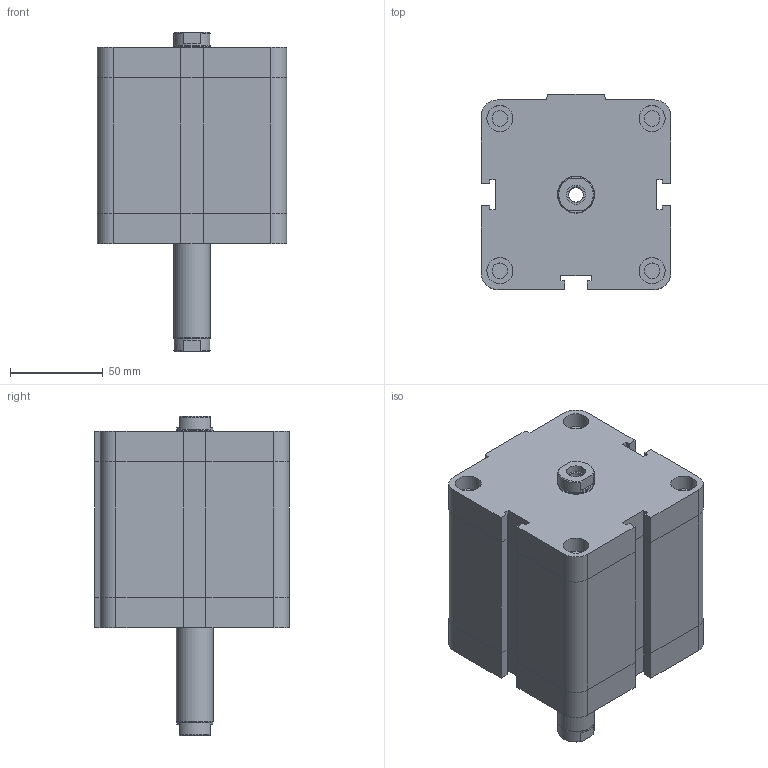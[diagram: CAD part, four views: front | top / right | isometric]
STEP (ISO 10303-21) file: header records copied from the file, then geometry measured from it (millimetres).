
FILE_DESCRIPTION((''),'2;1');
FILE_NAME('I:\Area Tecnica\Disegni\VARIE-3D\Componenti\EUROPE\15##_###_####_06_#\1581_80_0050_06_1.iam.stp','2009-04-20T15:11:51',(''),(''),'Autodesk Inventor 2009','Autodesk Inventor 2009','');
FILE_SCHEMA(('AUTOMOTIVE_DESIGN { 1 0 10303 214 1 1 1 1 }'));
Length unit declared in the file: millimetre
Products named in the file (3): 1581_80_0050_06_1; 1581_80_0050_03_1_C; 1561_80_0050_06_1_S
Assembly tree (2 placements, depth 2):
  1581_80_0050_06_1
    1581_80_0050_03_1_C
    1561_80_0050_06_1_S
Bounding box: 102 x 105 x 172 mm (x, y, z)
Volume: 1066829.6 mm3; surface area: 98155.7 mm2
Topology: 2 solids, 2 shells, 175 faces, 382 edges, 233 vertices
Faces by surface type: plane 114, bspline 30, cylinder 25, cone 6
Full cylindrical faces by diameter (mm): 8.376 x5, 10.3 x1, 14 x4, 19.5 x2, 20 x1
Entity records: 4805 total; most frequent: CARTESIAN_POINT 1042, DIRECTION 712, ORIENTED_EDGE 680, EDGE_CURVE 340, VECTOR 252, LINE 252, AXIS2_PLACEMENT_3D 230, EDGE_LOOP 230
